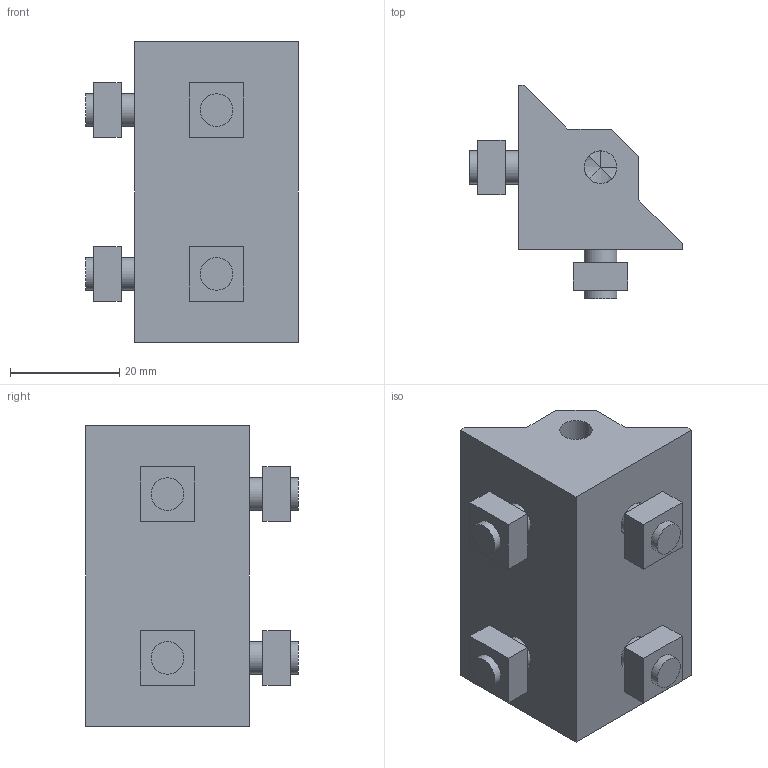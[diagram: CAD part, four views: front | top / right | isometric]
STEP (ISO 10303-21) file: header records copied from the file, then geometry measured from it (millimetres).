
FILE_DESCRIPTION((''),'2;1');
FILE_NAME('C:\Documents and Settings\AMS8\デスクトップ\2013from西村作業用\既存3D\M6ブラケット差分\ABLB-3055-6-T\ABLB-3055-6-T.stp','2013-08-12T09:36:16',('AMS8'),(''),'Autodesk Inventor 2008','Autodesk Inventor 2008','');
FILE_SCHEMA(('AUTOMOTIVE_DESIGN { 1 0 10303 214 1 1 1 1 }'));
Length unit declared in the file: millimetre
Products named in the file (10): ABLB-3055-6-T; ABLB-3055-6-T1; ABLB-3055-6-T2; ABLB-3055-6-T3; ABLB-3055-6-T4; ABLB-3055-6-T5; ABLB-3055-6-T6; ABLB-3055-6-T7; ABLB-3055-6-T8; ABLB-3055-6-T9
Assembly tree (9 placements, depth 2):
  ABLB-3055-6-T
    ABLB-3055-6-T1
    ABLB-3055-6-T2
    ABLB-3055-6-T3
    ABLB-3055-6-T4
    ABLB-3055-6-T5
    ABLB-3055-6-T6
    ABLB-3055-6-T7
    ABLB-3055-6-T8
    ABLB-3055-6-T9
Bounding box: 39 x 39 x 55 mm (x, y, z)
Volume: 29035 mm3; surface area: 12625.7 mm2
Topology: 9 solids, 9 shells, 82 faces, 177 edges, 116 vertices
Faces by surface type: plane 57, cylinder 25
Full cylindrical faces by diameter (mm): 6 x9, 6.6 x4, 10 x4, 11 x4
Entity records: 2446 total; most frequent: CARTESIAN_POINT 413, DIRECTION 397, ORIENTED_EDGE 304, EDGE_CURVE 152, AXIS2_PLACEMENT_3D 149, EDGE_LOOP 124, VERTEX_POINT 112, VECTOR 99
